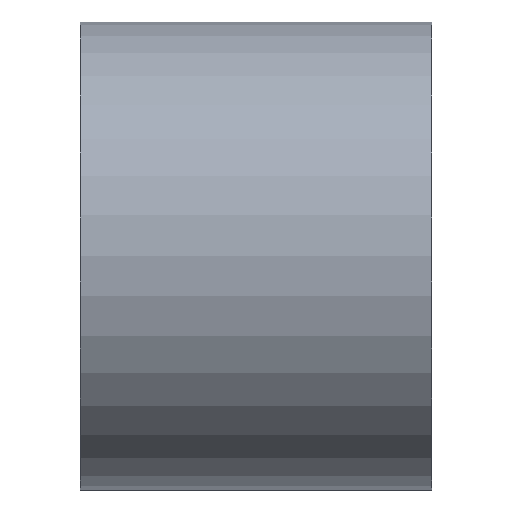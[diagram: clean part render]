
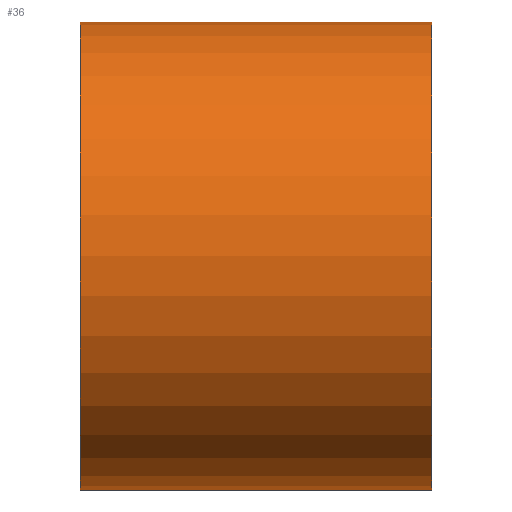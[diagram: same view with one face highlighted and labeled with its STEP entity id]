
A CAD part, top view. The second image highlights one B-rep face of the part: STEP entity #36.
In plain terms, the highlighted cylindrical face has radius 3.175 mm (diameter 6.35 mm), a partial arc.
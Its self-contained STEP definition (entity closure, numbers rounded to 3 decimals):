
#36=ADVANCED_FACE('',(#42),#78,.T.);
#42=FACE_OUTER_BOUND('',#50,.F.);
#50=EDGE_LOOP('',(#71,#72,#73,#74));
#71=ORIENTED_EDGE('',*,*,#101,.F.);
#72=ORIENTED_EDGE('',*,*,#106,.T.);
#73=ORIENTED_EDGE('',*,*,#102,.T.);
#74=ORIENTED_EDGE('',*,*,#105,.T.);
#78=CYLINDRICAL_SURFACE('',#138,3.175);
#89=LINE('',#191,#93);
#90=LINE('',#192,#94);
#93=VECTOR('',#152,4.762);
#94=VECTOR('',#153,4.762);
#101=EDGE_CURVE('',#115,#118,#89,.T.);
#102=EDGE_CURVE('',#116,#117,#90,.T.);
#105=EDGE_CURVE('',#117,#118,#113,.T.);
#106=EDGE_CURVE('',#115,#116,#114,.T.);
#113=CIRCLE('',#131,3.175);
#114=CIRCLE('',#132,3.175);
#115=VERTEX_POINT('',#177);
#116=VERTEX_POINT('',#178);
#117=VERTEX_POINT('',#179);
#118=VERTEX_POINT('',#180);
#131=AXIS2_PLACEMENT_3D('',#195,#158,#159);
#132=AXIS2_PLACEMENT_3D('',#196,#160,#161);
#138=AXIS2_PLACEMENT_3D('',#202,#172,#173);
#152=DIRECTION('',(1.,0.,0.));
#153=DIRECTION('',(1.,0.,0.));
#158=DIRECTION('',(1.,0.,0.));
#159=DIRECTION('',(0.,1.,0.));
#160=DIRECTION('',(-1.,0.,0.));
#161=DIRECTION('',(0.,-1.,0.));
#172=DIRECTION('',(1.,0.,0.));
#173=DIRECTION('',(0.,1.,0.));
#177=CARTESIAN_POINT('',(1964.101,-2839.831,6185.745));
#178=CARTESIAN_POINT('',(1964.101,-2833.481,6185.745));
#179=CARTESIAN_POINT('',(1968.864,-2833.481,6185.745));
#180=CARTESIAN_POINT('',(1968.864,-2839.831,6185.745));
#191=CARTESIAN_POINT('',(1964.101,-2839.831,6185.745));
#192=CARTESIAN_POINT('',(1964.101,-2833.481,6185.745));
#195=CARTESIAN_POINT('',(1968.864,-2836.656,6185.745));
#196=CARTESIAN_POINT('',(1964.101,-2836.656,6185.745));
#202=CARTESIAN_POINT('',(1964.101,-2836.656,6185.745));
